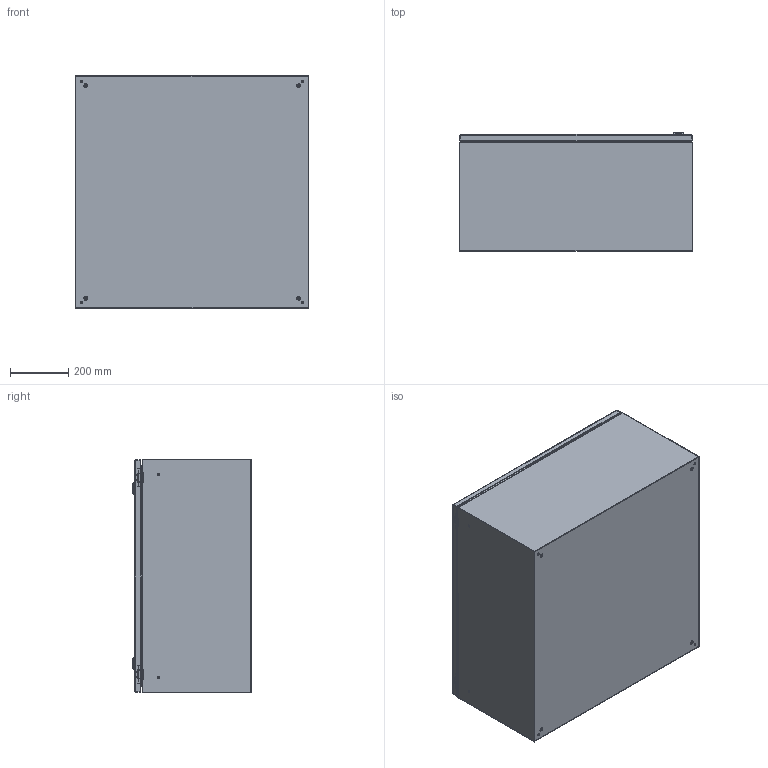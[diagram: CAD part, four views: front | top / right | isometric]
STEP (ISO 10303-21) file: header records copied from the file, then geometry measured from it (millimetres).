
FILE_DESCRIPTION (( 'STEP AP203' ), '1' );
FILE_NAME ('RICEB08841.STEP', '2020-05-20T10:45:26', ( '' ), ( '' ), 'SwSTEP 2.0', 'SolidWorks 2019', '' );
FILE_SCHEMA (( 'CONFIG_CONTROL_DESIGN' ));
Length unit declared in the file: millimetre
Products named in the file (31): CERNIERA x CASSA SPESSORE 1,2; BOX01; CB07C021_800x800; AC00C399IX6; AC00C348; A5100252; CB02T116IX4; CB02C267IX4; AC00C401IX6; A7100031_AC00C356(A7100031); CB01C195IX4; RICEB08841; CB01C194IX4; AC00C344_AC00C344; ACC00813; A1100004; A5100392; AC00C503; ACC00815; AC00C817; AC00C443; A0300056; AC00C398IX6; A3300009; AC00C524; VULK 88; CB01T141IX4; CB01C196IX4; A7100032_A7100032
Assembly tree (62 placements, depth 4):
  RICEB08841
    CB01T141IX4
      CB01C194IX4
      A5100392  x4
      AC00C817  x4
      A3300009  x4
      CB01C196IX4
      CERNIERA x CASSA SPESSORE 1,2
        AC00C399IX6
        AC00C401IX6
        ACC00813
        ACC00815
        A0300056  x2
      CERNIERA x CASSA SPESSORE 1,2
        AC00C399IX6
        AC00C401IX6
        ACC00813
        ACC00815
        A0300056  x2
      A5100252  x4
      CB01C195IX4
    CB07C021_800x800
    CB02T116IX4
      CB02C267IX4
      AC00C344_AC00C344  x2
      BOX01
        AC00C503
        AC00C443
        AC00C524
        A7100032_A7100032
        AC00C348
        A7100031_AC00C356(A7100031)
        A1100004
      AC00C398IX6  x2
      A5100252  x4
      VULK 88
      BOX01
        AC00C503
        AC00C443
        AC00C524
        A7100032_A7100032
        AC00C348
        A7100031_AC00C356(A7100031)
        A1100004
Bounding box: 800 x 406.5 x 800 mm (x, y, z)
Volume: 5751942.3 mm3; surface area: 6627240.5 mm2
Topology: 58 solids, 58 shells, 3071 faces, 7590 edges, 4506 vertices
Faces by surface type: plane 1071, cylinder 750, cone 592, torus 426, bspline 204, sphere 28
Entity records: 54348 total; most frequent: CARTESIAN_POINT 13494, ORIENTED_EDGE 7690, DIRECTION 7517, EDGE_CURVE 3845, AXIS2_PLACEMENT_3D 2735, VERTEX_POINT 2368, LINE 2047, VECTOR 2047
